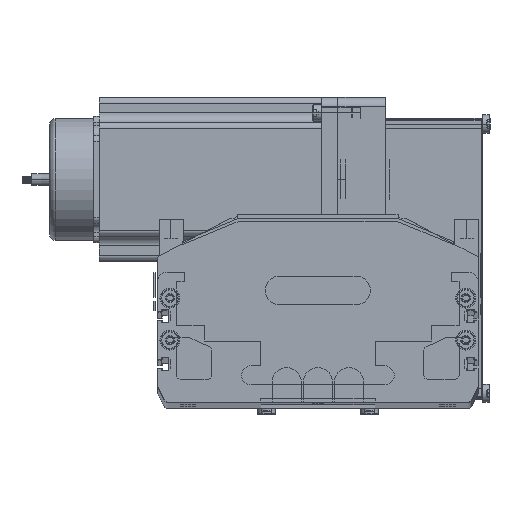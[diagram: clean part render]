
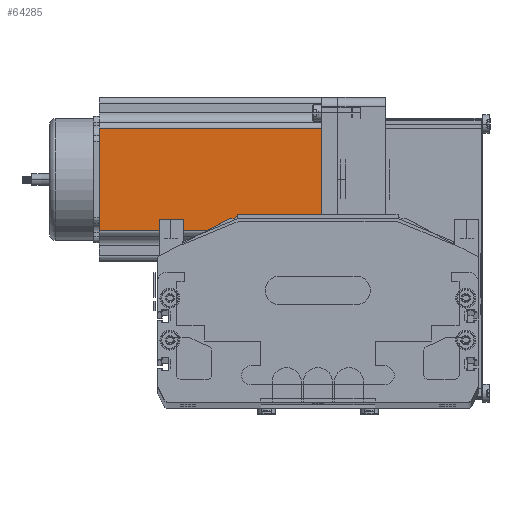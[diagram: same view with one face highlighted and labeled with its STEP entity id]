
A CAD part, top view. The second image highlights one B-rep face of the part: STEP entity #64285.
In plain terms, the highlighted planar face has unit normal (0, 0, 1) as drawn and (0, -1, 0) by its records, which use the part's own axes.
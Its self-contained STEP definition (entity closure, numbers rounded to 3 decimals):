
#25278 = ORIENTED_EDGE ( 'NONE', *, *, #64193, .T. ) ;
#28070 = DIRECTION ( 'NONE',  ( 0., 0., -1. ) ) ;
#28072 = VECTOR ( 'NONE', #28070, 1000. ) ;
#28074 = CARTESIAN_POINT ( 'NONE',  ( 16.16, 0., 116.5 ) ) ;
#28076 = LINE ( 'NONE', #28074, #28072 ) ;
#28123 = CARTESIAN_POINT ( 'NONE',  ( 69.74, 0., 0. ) ) ;
#28129 = CARTESIAN_POINT ( 'NONE',  ( 0., 0., 116.5 ) ) ;
#28151 = CARTESIAN_POINT ( 'NONE',  ( 0., 0., 116.5 ) ) ;
#28152 = DIRECTION ( 'NONE',  ( 1., 0., 0. ) ) ;
#28153 = VECTOR ( 'NONE', #28152, 1000. ) ;
#28155 = CARTESIAN_POINT ( 'NONE',  ( 0., 0., 0. ) ) ;
#28157 = LINE ( 'NONE', #28151, #28225 ) ;
#28167 = DIRECTION ( 'NONE',  ( 0., 0., 1. ) ) ;
#28168 = VECTOR ( 'NONE', #28167, 1000. ) ;
#28170 = CARTESIAN_POINT ( 'NONE',  ( 69.74, 0., 116.5 ) ) ;
#28171 = LINE ( 'NONE', #28155, #28153 ) ;
#28172 = PLANE ( 'NONE',  #28185 ) ;
#28173 = FACE_OUTER_BOUND ( 'NONE', #64112, .T. ) ;
#28174 = DIRECTION ( 'NONE',  ( 0., 0., 1. ) ) ;
#28175 = DIRECTION ( 'NONE',  ( 0., 1., 0. ) ) ;
#28177 = LINE ( 'NONE', #28170, #28168 ) ;
#28178 = CARTESIAN_POINT ( 'NONE',  ( 69.74, 0., 116.5 ) ) ;
#28184 = CARTESIAN_POINT ( 'NONE',  ( 16.16, 0., 0. ) ) ;
#28185 = AXIS2_PLACEMENT_3D ( 'NONE', #28129, #28175, #28174 ) ;
#28224 = DIRECTION ( 'NONE',  ( 1., 0., 0. ) ) ;
#28225 = VECTOR ( 'NONE', #28224, 1000. ) ;
#28227 = CARTESIAN_POINT ( 'NONE',  ( 16.16, 0., 116.5 ) ) ;
#64092 = ORIENTED_EDGE ( 'NONE', *, *, #64294, .F. ) ;
#64112 = EDGE_LOOP ( 'NONE', ( #64266, #64287, #64092, #25278 ) ) ;
#64193 = EDGE_CURVE ( 'NONE', #64295, #64289, #28076, .T. ) ;
#64266 = ORIENTED_EDGE ( 'NONE', *, *, #64293, .T. ) ;
#64276 = VERTEX_POINT ( 'NONE', #28123 ) ;
#64283 = VERTEX_POINT ( 'NONE', #28178 ) ;
#64285 = ADVANCED_FACE ( 'NONE', ( #28173 ), #28172, .F. ) ;
#64287 = ORIENTED_EDGE ( 'NONE', *, *, #64288, .T. ) ;
#64288 = EDGE_CURVE ( 'NONE', #64276, #64283, #28177, .T. ) ;
#64289 = VERTEX_POINT ( 'NONE', #28184 ) ;
#64293 = EDGE_CURVE ( 'NONE', #64289, #64276, #28171, .T. ) ;
#64294 = EDGE_CURVE ( 'NONE', #64295, #64283, #28157, .T. ) ;
#64295 = VERTEX_POINT ( 'NONE', #28227 ) ;
